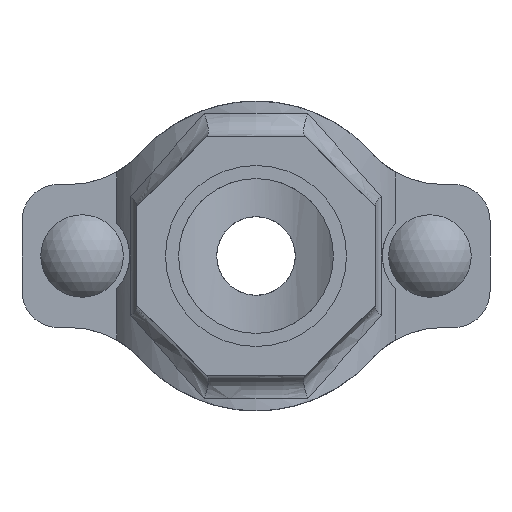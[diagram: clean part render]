
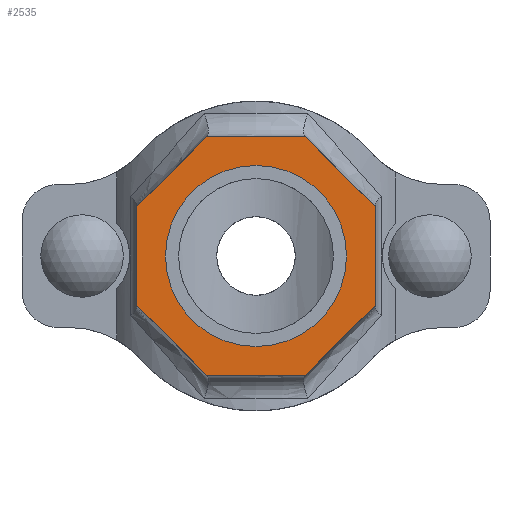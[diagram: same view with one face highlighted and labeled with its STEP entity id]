
A CAD part, front view. The second image highlights one B-rep face of the part: STEP entity #2535.
In plain terms, the highlighted planar face has unit normal (0, -1, 0) as drawn and (0, 1, 0) by its records, which use the part's own axes.
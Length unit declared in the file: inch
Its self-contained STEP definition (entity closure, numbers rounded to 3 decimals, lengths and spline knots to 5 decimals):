
#182=FACE_BOUND('',#451,.T.);
#299=FACE_OUTER_BOUND('',#450,.T.);
#450=EDGE_LOOP('',(#2116,#2117,#2118,#2119,#2120,#2121,#2122,#2123));
#451=EDGE_LOOP('',(#2124));
#590=LINE('',#4611,#776);
#593=LINE('',#4616,#779);
#595=LINE('',#4620,#781);
#597=LINE('',#4624,#783);
#630=LINE('',#4990,#816);
#632=LINE('',#4994,#818);
#634=LINE('',#4998,#820);
#636=LINE('',#5001,#822);
#776=VECTOR('',#3282,0.3937);
#779=VECTOR('',#3287,0.3937);
#781=VECTOR('',#3291,0.3937);
#783=VECTOR('',#3295,0.3937);
#816=VECTOR('',#3414,0.3937);
#818=VECTOR('',#3418,0.3937);
#820=VECTOR('',#3422,0.3937);
#822=VECTOR('',#3426,0.3937);
#915=CIRCLE('',#2803,0.95);
#1097=VERTEX_POINT('',#4608);
#1098=VERTEX_POINT('',#4610);
#1099=VERTEX_POINT('',#4614);
#1100=VERTEX_POINT('',#4618);
#1101=VERTEX_POINT('',#4622);
#1138=VERTEX_POINT('',#4884);
#1153=VERTEX_POINT('',#4989);
#1154=VERTEX_POINT('',#4993);
#1155=VERTEX_POINT('',#4997);
#1408=EDGE_CURVE('',#1098,#1097,#590,.T.);
#1411=EDGE_CURVE('',#1097,#1099,#593,.T.);
#1413=EDGE_CURVE('',#1099,#1100,#595,.T.);
#1415=EDGE_CURVE('',#1100,#1101,#597,.T.);
#1464=EDGE_CURVE('',#1138,#1138,#915,.T.);
#1483=EDGE_CURVE('',#1153,#1098,#630,.T.);
#1485=EDGE_CURVE('',#1154,#1153,#632,.T.);
#1487=EDGE_CURVE('',#1155,#1154,#634,.T.);
#1489=EDGE_CURVE('',#1101,#1155,#636,.T.);
#2116=ORIENTED_EDGE('',*,*,#1489,.T.);
#2117=ORIENTED_EDGE('',*,*,#1487,.T.);
#2118=ORIENTED_EDGE('',*,*,#1485,.T.);
#2119=ORIENTED_EDGE('',*,*,#1483,.T.);
#2120=ORIENTED_EDGE('',*,*,#1408,.T.);
#2121=ORIENTED_EDGE('',*,*,#1411,.T.);
#2122=ORIENTED_EDGE('',*,*,#1413,.T.);
#2123=ORIENTED_EDGE('',*,*,#1415,.T.);
#2124=ORIENTED_EDGE('',*,*,#1464,.T.);
#2278=PLANE('',#2820);
#2535=ADVANCED_FACE('',(#299,#182),#2278,.T.);
#2803=AXIS2_PLACEMENT_3D('',#4885,#3378,#3379);
#2820=AXIS2_PLACEMENT_3D('',#5002,#3427,#3428);
#3282=DIRECTION('',(0.,0.,1.));
#3287=DIRECTION('',(0.707,0.,0.707));
#3291=DIRECTION('',(1.,0.,0.));
#3295=DIRECTION('',(0.707,0.,-0.707));
#3378=DIRECTION('center_axis',(0.,-1.,0.));
#3379=DIRECTION('ref_axis',(-1.,0.,0.));
#3414=DIRECTION('',(-0.707,0.,0.707));
#3418=DIRECTION('',(-1.,0.,0.));
#3422=DIRECTION('',(-0.707,0.,-0.707));
#3426=DIRECTION('',(0.,0.,-1.));
#3427=DIRECTION('center_axis',(0.,1.,0.));
#3428=DIRECTION('ref_axis',(0.,0.,1.));
#4608=CARTESIAN_POINT('',(-1.25,2.75,0.51777));
#4610=CARTESIAN_POINT('',(-1.25,2.75,-0.51777));
#4611=CARTESIAN_POINT('',(-1.25,2.75,0.51777));
#4614=CARTESIAN_POINT('',(-0.51777,2.75,1.25));
#4616=CARTESIAN_POINT('',(-0.51777,2.75,1.25));
#4618=CARTESIAN_POINT('',(0.51777,2.75,1.25));
#4620=CARTESIAN_POINT('',(0.51777,2.75,1.25));
#4622=CARTESIAN_POINT('',(1.25,2.75,0.51777));
#4624=CARTESIAN_POINT('',(1.25,2.75,0.51777));
#4884=CARTESIAN_POINT('',(0.95,2.75,0.));
#4885=CARTESIAN_POINT('Origin',(0.,2.75,0.));
#4989=CARTESIAN_POINT('',(-0.51777,2.75,-1.25));
#4990=CARTESIAN_POINT('',(-1.25,2.75,-0.51777));
#4993=CARTESIAN_POINT('',(0.51777,2.75,-1.25));
#4994=CARTESIAN_POINT('',(-0.51777,2.75,-1.25));
#4997=CARTESIAN_POINT('',(1.25,2.75,-0.51777));
#4998=CARTESIAN_POINT('',(0.51777,2.75,-1.25));
#5001=CARTESIAN_POINT('',(1.25,2.75,-0.51777));
#5002=CARTESIAN_POINT('Origin',(0.,2.75,0.));
